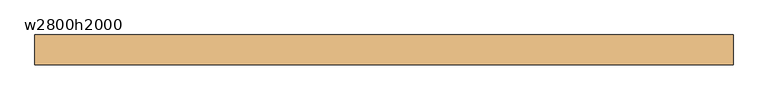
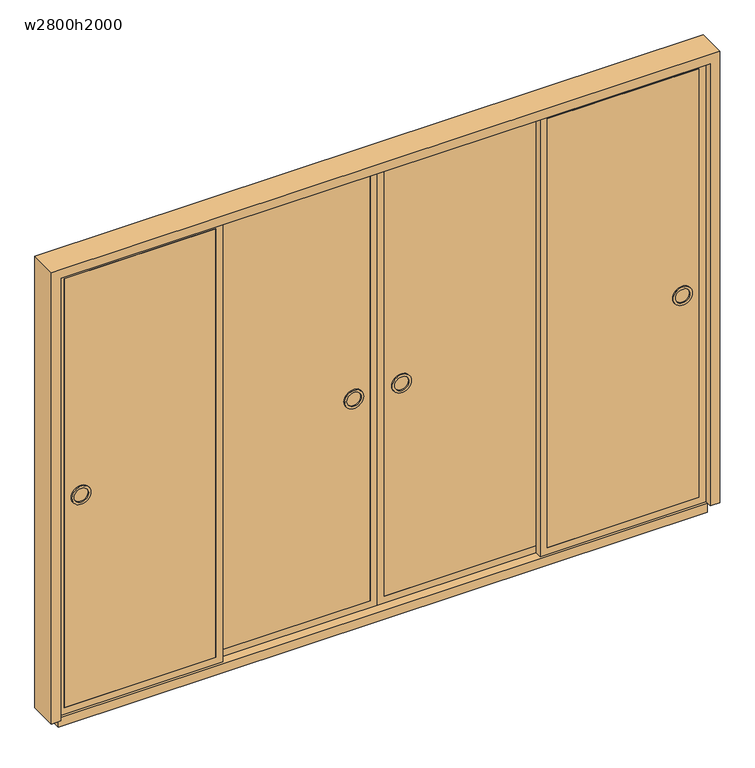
"""IFC4 building model written with IfcOpenShell, lengths in millimetres: door geometry, 引違い 4 枚 2 溝_襖 : w2800h2000."""

from ifc_helpers import new_model, si_unit, point, frame, frame_2d, origin, place, context, project, spatial, polyline, circle_curve, trimmed, segment, composite_curve, outline, extrude, source, transform, mapped, element, save
from ifc_brep_helpers import plane_surface, cylinder_surface, revolved_surface, advanced_brep


def w2800h2000_04aa64cd(model_context):
    return source(origin(), model_context, "Body", "SolidModel", [
        advanced_brep(
        [(54.464496, 35.0, 950.0), (134.464496, 35.0, 950.0), (124.464496, 35.0, 950.0), (64.464496, 35.0, 950.0), (54.464496, -5.0, 950.0), (134.464496, -5.0, 950.0), (64.464496, -5.0, 950.0), (124.464496, -5.0, 950.0), (124.464496, 30.0, 950.0), (64.464496, 30.0, 950.0), (124.464496, 0.0, 950.0), (64.464496, 0.0, 950.0)],
        [
            (0, 1, circle_curve(frame((94.464496, 35.0, 950.0), z_axis=(0.0, 1.0, 0.0), x_axis=(1.0, 0.0, 0.0)), 40.0)),
            (1, 0, circle_curve(frame((94.464496, 35.0, 950.0), z_axis=(0.0, 1.0, 0.0), x_axis=(1.0, 0.0, 0.0)), 40.0)),
            (2, 3, circle_curve(frame((94.464496, 35.0, 950.0), z_axis=(0.0, -1.0, 0.0), x_axis=(-1.0, 0.0, 0.0)), 30.0)),
            (3, 2, circle_curve(frame((94.464496, 35.0, 950.0), z_axis=(0.0, -1.0, 0.0), x_axis=(-1.0, 0.0, 0.0)), 30.0)),
            (4, 5, circle_curve(frame((94.464496, -5.0, 950.0), z_axis=(0.0, -1.0, 0.0), x_axis=(1.0, 0.0, 0.0)), 40.0)),
            (5, 4, circle_curve(frame((94.464496, -5.0, 950.0), z_axis=(0.0, -1.0, 0.0), x_axis=(1.0, 0.0, 0.0)), 40.0)),
            (6, 7, circle_curve(frame((94.464496, -5.0, 950.0), z_axis=(0.0, 1.0, 0.0), x_axis=(-1.0, 0.0, 0.0)), 30.0)),
            (7, 6, circle_curve(frame((94.464496, -5.0, 950.0), z_axis=(0.0, 1.0, 0.0), x_axis=(-1.0, 0.0, 0.0)), 30.0)),
            (1, 5),
            (4, 0),
            (8, 9, circle_curve(frame((94.464496, 30.0, 950.0), z_axis=(0.0, 1.0, 0.0), x_axis=(-1.0, 0.0, 0.0)), 30.0)),
            (9, 8, circle_curve(frame((94.464496, 30.0, 950.0), z_axis=(0.0, 1.0, 0.0), x_axis=(-1.0, 0.0, 0.0)), 30.0)),
            (8, 2),
            (3, 9),
            (10, 11, circle_curve(frame((94.464496, 0.0, 950.0), z_axis=(0.0, -1.0, 0.0), x_axis=(-1.0, 0.0, 0.0)), 30.0)),
            (11, 10, circle_curve(frame((94.464496, 0.0, 950.0), z_axis=(0.0, -1.0, 0.0), x_axis=(-1.0, 0.0, 0.0)), 30.0)),
            (11, 6),
            (7, 10),
        ],
        [
            plane_surface(frame((134.464496, 35.0, 950.0), z_axis=(0.0, 1.0, 0.0), x_axis=(0.0, 0.0, 1.0))),
            plane_surface(frame((134.464496, -5.0, 950.0), z_axis=(0.0, -1.0, 0.0), x_axis=(0.0, 0.0, -1.0))),
            cylinder_surface(frame((94.464496, -5.0, 950.0), z_axis=(0.0, 1.0, 0.0), x_axis=(1.0, 0.0, 0.0)), 40.0),
            plane_surface(frame((64.464496, 30.0, 950.0), z_axis=(0.0, 1.0, 0.0), x_axis=(0.0, 0.0, 1.0))),
            revolved_surface(polyline([(64.464496, 30.0, 950.0), (64.464496, 35.0, 950.0)]), (94.464496, 35.0, 950.0), (0.0, -1.0, 0.0)),
            plane_surface(frame((64.464496, 0.0, 950.0), z_axis=(0.0, -1.0, 0.0), x_axis=(0.0, 0.0, -1.0))),
            revolved_surface(polyline([(64.464496, -5.0, 950.0), (64.464496, 0.0, 950.0)]), (94.464496, 0.0, 950.0), (0.0, -1.0, 0.0)),
        ],
        [
            (0, [[1, 2], [3, 4]]),
            (1, [[5, 6], [7, 8]]),
            (2, [[9, -5, 10, -2]]),
            (2, [[-10, -6, -9, -1]]),
            (3, [[11, 12]]),
            (4, [[13, -4, 14, -11]]),
            (4, [[-14, -3, -13, -12]]),
            (5, [[15, 16]]),
            (6, [[17, -8, 18, -16]]),
            (6, [[-18, -7, -17, -15]]),
        ],
    ),
        extrude(outline(polyline([(1930.0, 659.464496), (1930.0, 24.464496), (30.0, 24.464496), (30.0, 659.464496), (1930.0, 659.464496)]), holes=[composite_curve([segment(trimmed(circle_curve(frame_2d((950.0, 94.464496)), 40.0), [point((950.0, 54.464496))], [point((950.0, 134.464496))], True, "CARTESIAN"), True, "CONTINUOUS"), segment(trimmed(circle_curve(frame_2d((950.0, 94.464496)), 40.0), [point((950.0, 134.464496))], [point((950.0, 54.464496))], True, "CARTESIAN"), True, "CONTINUOUS")], self_intersect=False)]), frame((0.0, 0.0, 0.0), z_axis=(0.0, 1.0, 0.0), x_axis=(0.0, 0.0, 1.0)), (0.0, 0.0, 1.0), 30.0),
        extrude(outline(polyline([(1960.0, 689.464496), (1960.0, -5.535504), (0.0, -5.535504), (0.0, 689.464496), (1960.0, 689.464496)]), holes=[polyline([(30.0, 24.464496), (1930.0, 24.464496), (1930.0, 659.464496), (30.0, 659.464496), (30.0, 24.464496)])]), frame((0.0, 0.0, 0.0), z_axis=(0.0, 1.0, 0.0), x_axis=(0.0, 0.0, 1.0)), (0.0, 0.0, 1.0), 30.0),
        advanced_brep(
        [(1294.464496, 5.0, 950.0), (1214.464496, 5.0, 950.0), (1224.464496, 5.0, 950.0), (1284.464496, 5.0, 950.0), (1294.464496, -35.0, 950.0), (1214.464496, -35.0, 950.0), (1284.464496, -35.0, 950.0), (1224.464496, -35.0, 950.0), (1224.464496, 0.0, 950.0), (1284.464496, 0.0, 950.0), (1224.464496, -30.0, 950.0), (1284.464496, -30.0, 950.0)],
        [
            (0, 1, circle_curve(frame((1254.464496, 5.0, 950.0), z_axis=(0.0, 1.0, 0.0), x_axis=(-1.0, 0.0, 0.0)), 40.0)),
            (1, 0, circle_curve(frame((1254.464496, 5.0, 950.0), z_axis=(0.0, 1.0, 0.0), x_axis=(-1.0, 0.0, 0.0)), 40.0)),
            (2, 3, circle_curve(frame((1254.464496, 5.0, 950.0), z_axis=(0.0, -1.0, 0.0), x_axis=(1.0, 0.0, 0.0)), 30.0)),
            (3, 2, circle_curve(frame((1254.464496, 5.0, 950.0), z_axis=(0.0, -1.0, 0.0), x_axis=(1.0, 0.0, 0.0)), 30.0)),
            (4, 5, circle_curve(frame((1254.464496, -35.0, 950.0), z_axis=(0.0, -1.0, 0.0), x_axis=(-1.0, 0.0, 0.0)), 40.0)),
            (5, 4, circle_curve(frame((1254.464496, -35.0, 950.0), z_axis=(0.0, -1.0, 0.0), x_axis=(-1.0, 0.0, 0.0)), 40.0)),
            (6, 7, circle_curve(frame((1254.464496, -35.0, 950.0), z_axis=(0.0, 1.0, 0.0), x_axis=(1.0, 0.0, 0.0)), 30.0)),
            (7, 6, circle_curve(frame((1254.464496, -35.0, 950.0), z_axis=(0.0, 1.0, 0.0), x_axis=(1.0, 0.0, 0.0)), 30.0)),
            (0, 4),
            (5, 1),
            (8, 9, circle_curve(frame((1254.464496, 0.0, 950.0), z_axis=(0.0, 1.0, 0.0), x_axis=(1.0, 0.0, 0.0)), 30.0)),
            (9, 8, circle_curve(frame((1254.464496, 0.0, 950.0), z_axis=(0.0, 1.0, 0.0), x_axis=(1.0, 0.0, 0.0)), 30.0)),
            (9, 3),
            (2, 8),
            (10, 11, circle_curve(frame((1254.464496, -30.0, 950.0), z_axis=(0.0, -1.0, 0.0), x_axis=(1.0, 0.0, 0.0)), 30.0)),
            (11, 10, circle_curve(frame((1254.464496, -30.0, 950.0), z_axis=(0.0, -1.0, 0.0), x_axis=(1.0, 0.0, 0.0)), 30.0)),
            (10, 7),
            (6, 11),
        ],
        [
            plane_surface(frame((1214.464496, 5.0, 950.0), z_axis=(0.0, 1.0, 0.0), x_axis=(0.0, 0.0, 1.0))),
            plane_surface(frame((1214.464496, -35.0, 950.0), z_axis=(0.0, -1.0, 0.0), x_axis=(0.0, 0.0, -1.0))),
            cylinder_surface(frame((1254.464496, -35.0, 950.0), z_axis=(0.0, 1.0, 0.0), x_axis=(-1.0, 0.0, 0.0)), 40.0),
            plane_surface(frame((1284.464496, 0.0, 950.0), z_axis=(0.0, 1.0, 0.0), x_axis=(0.0, 0.0, 1.0))),
            revolved_surface(polyline([(1284.464496, 0.0, 950.0), (1284.464496, 5.0, 950.0)]), (1254.464496, 5.0, 950.0), (0.0, -1.0, 0.0)),
            plane_surface(frame((1284.464496, -30.0, 950.0), z_axis=(0.0, -1.0, 0.0), x_axis=(0.0, 0.0, -1.0))),
            revolved_surface(polyline([(1284.464496, -35.0, 950.0), (1284.464496, -30.0, 950.0)]), (1254.464496, -30.0, 950.0), (0.0, -1.0, 0.0)),
        ],
        [
            (0, [[1, 2], [3, 4]]),
            (1, [[5, 6], [7, 8]]),
            (2, [[-1, 9, -6, 10]]),
            (2, [[-2, -10, -5, -9]]),
            (3, [[11, 12]]),
            (4, [[-12, 13, -3, 14]]),
            (4, [[-11, -14, -4, -13]]),
            (5, [[15, 16]]),
            (6, [[-15, 17, -7, 18]]),
            (6, [[-16, -18, -8, -17]]),
        ],
    ),
        extrude(outline(polyline([(1930.0, 689.464496), (30.0, 689.464496), (30.0, 1324.464496), (1930.0, 1324.464496), (1930.0, 689.464496)]), holes=[composite_curve([segment(trimmed(circle_curve(frame_2d((950.0, 1254.464496)), 40.0), [point((950.0, 1294.464496))], [point((950.0, 1214.464496))], True, "CARTESIAN"), True, "CONTINUOUS"), segment(trimmed(circle_curve(frame_2d((950.0, 1254.464496)), 40.0), [point((950.0, 1214.464496))], [point((950.0, 1294.464496))], True, "CARTESIAN"), True, "CONTINUOUS")], self_intersect=False)]), frame((0.0, -30.0, 0.0), z_axis=(0.0, 1.0, 0.0), x_axis=(0.0, 0.0, 1.0)), (0.0, 0.0, 1.0), 30.0),
        extrude(outline(polyline([(1960.0, 659.464496), (0.0, 659.464496), (0.0, 1354.464496), (1960.0, 1354.464496), (1960.0, 659.464496)]), holes=[polyline([(30.0, 1324.464496), (30.0, 689.464496), (1930.0, 689.464496), (1930.0, 1324.464496), (30.0, 1324.464496)])]), frame((0.0, -30.0, 0.0), z_axis=(0.0, 1.0, 0.0), x_axis=(0.0, 0.0, 1.0)), (0.0, 0.0, 1.0), 30.0),
        advanced_brep(
        [(-65.535504, 35.0, 950.0), (-145.535504, 35.0, 950.0), (-135.535504, 35.0, 950.0), (-75.535504, 35.0, 950.0), (-65.535504, -5.0, 950.0), (-145.535504, -5.0, 950.0), (-75.535504, -5.0, 950.0), (-135.535504, -5.0, 950.0), (-135.535504, 30.0, 950.0), (-75.535504, 30.0, 950.0), (-135.535504, 0.0, 950.0), (-75.535504, 0.0, 950.0)],
        [
            (0, 1, circle_curve(frame((-105.535504, 35.0, 950.0), z_axis=(0.0, 1.0, 0.0), x_axis=(-1.0, 0.0, 0.0)), 40.0)),
            (1, 0, circle_curve(frame((-105.535504, 35.0, 950.0), z_axis=(0.0, 1.0, 0.0), x_axis=(-1.0, 0.0, 0.0)), 40.0)),
            (2, 3, circle_curve(frame((-105.535504, 35.0, 950.0), z_axis=(0.0, -1.0, 0.0), x_axis=(1.0, 0.0, 0.0)), 30.0)),
            (3, 2, circle_curve(frame((-105.535504, 35.0, 950.0), z_axis=(0.0, -1.0, 0.0), x_axis=(1.0, 0.0, 0.0)), 30.0)),
            (4, 5, circle_curve(frame((-105.535504, -5.0, 950.0), z_axis=(0.0, -1.0, 0.0), x_axis=(-1.0, 0.0, 0.0)), 40.0)),
            (5, 4, circle_curve(frame((-105.535504, -5.0, 950.0), z_axis=(0.0, -1.0, 0.0), x_axis=(-1.0, 0.0, 0.0)), 40.0)),
            (6, 7, circle_curve(frame((-105.535504, -5.0, 950.0), z_axis=(0.0, 1.0, 0.0), x_axis=(1.0, 0.0, 0.0)), 30.0)),
            (7, 6, circle_curve(frame((-105.535504, -5.0, 950.0), z_axis=(0.0, 1.0, 0.0), x_axis=(1.0, 0.0, 0.0)), 30.0)),
            (0, 4),
            (5, 1),
            (8, 9, circle_curve(frame((-105.535504, 30.0, 950.0), z_axis=(0.0, 1.0, 0.0), x_axis=(1.0, 0.0, 0.0)), 30.0)),
            (9, 8, circle_curve(frame((-105.535504, 30.0, 950.0), z_axis=(0.0, 1.0, 0.0), x_axis=(1.0, 0.0, 0.0)), 30.0)),
            (9, 3),
            (2, 8),
            (10, 11, circle_curve(frame((-105.535504, 0.0, 950.0), z_axis=(0.0, -1.0, 0.0), x_axis=(1.0, 0.0, 0.0)), 30.0)),
            (11, 10, circle_curve(frame((-105.535504, 0.0, 950.0), z_axis=(0.0, -1.0, 0.0), x_axis=(1.0, 0.0, 0.0)), 30.0)),
            (10, 7),
            (6, 11),
        ],
        [
            plane_surface(frame((-145.535504, 35.0, 950.0), z_axis=(0.0, 1.0, 0.0), x_axis=(0.0, 0.0, 1.0))),
            plane_surface(frame((-145.535504, -5.0, 950.0), z_axis=(0.0, -1.0, 0.0), x_axis=(0.0, 0.0, -1.0))),
            cylinder_surface(frame((-105.535504, -5.0, 950.0), z_axis=(0.0, 1.0, 0.0), x_axis=(-1.0, 0.0, 0.0)), 40.0),
            plane_surface(frame((-75.535504, 30.0, 950.0), z_axis=(0.0, 1.0, 0.0), x_axis=(0.0, 0.0, 1.0))),
            revolved_surface(polyline([(-75.535504, 30.0, 950.0), (-75.535504, 35.0, 950.0)]), (-105.535504, 35.0, 950.0), (0.0, -1.0, 0.0)),
            plane_surface(frame((-75.535504, 0.0, 950.0), z_axis=(0.0, -1.0, 0.0), x_axis=(0.0, 0.0, -1.0))),
            revolved_surface(polyline([(-75.535504, -5.0, 950.0), (-75.535504, 0.0, 950.0)]), (-105.535504, 0.0, 950.0), (0.0, -1.0, 0.0)),
        ],
        [
            (0, [[1, 2], [3, 4]]),
            (1, [[5, 6], [7, 8]]),
            (2, [[-1, 9, -6, 10]]),
            (2, [[-2, -10, -5, -9]]),
            (3, [[11, 12]]),
            (4, [[-12, 13, -3, 14]]),
            (4, [[-11, -14, -4, -13]]),
            (5, [[15, 16]]),
            (6, [[-15, 17, -7, 18]]),
            (6, [[-16, -18, -8, -17]]),
        ],
    ),
        extrude(outline(polyline([(1930.0, -670.535504), (30.0, -670.535504), (30.0, -35.535504), (1930.0, -35.535504), (1930.0, -670.535504)]), holes=[composite_curve([segment(trimmed(circle_curve(frame_2d((950.0, -105.535504)), 40.0), [point((950.0, -65.535504))], [point((950.0, -145.535504))], True, "CARTESIAN"), True, "CONTINUOUS"), segment(trimmed(circle_curve(frame_2d((950.0, -105.535504)), 40.0), [point((950.0, -145.535504))], [point((950.0, -65.535504))], True, "CARTESIAN"), True, "CONTINUOUS")], self_intersect=False)]), frame((0.0, 0.0, 0.0), z_axis=(0.0, 1.0, 0.0), x_axis=(0.0, 0.0, 1.0)), (0.0, 0.0, 1.0), 30.0),
        extrude(outline(polyline([(1960.0, -700.535504), (0.0, -700.535504), (0.0, -5.535504), (1960.0, -5.535504), (1960.0, -700.535504)]), holes=[polyline([(30.0, -35.535504), (30.0, -670.535504), (1930.0, -670.535504), (1930.0, -35.535504), (30.0, -35.535504)])]), frame((0.0, 0.0, 0.0), z_axis=(0.0, 1.0, 0.0), x_axis=(0.0, 0.0, 1.0)), (0.0, 0.0, 1.0), 30.0),
        advanced_brep(
        [(-1305.535504, 5.0, 950.0), (-1225.535504, 5.0, 950.0), (-1235.535504, 5.0, 950.0), (-1295.535504, 5.0, 950.0), (-1305.535504, -35.0, 950.0), (-1225.535504, -35.0, 950.0), (-1295.535504, -35.0, 950.0), (-1235.535504, -35.0, 950.0), (-1235.535504, 0.0, 950.0), (-1295.535504, 0.0, 950.0), (-1235.535504, -30.0, 950.0), (-1295.535504, -30.0, 950.0)],
        [
            (0, 1, circle_curve(frame((-1265.535504, 5.0, 950.0), z_axis=(0.0, 1.0, 0.0), x_axis=(1.0, 0.0, 0.0)), 40.0)),
            (1, 0, circle_curve(frame((-1265.535504, 5.0, 950.0), z_axis=(0.0, 1.0, 0.0), x_axis=(1.0, 0.0, 0.0)), 40.0)),
            (2, 3, circle_curve(frame((-1265.535504, 5.0, 950.0), z_axis=(0.0, -1.0, 0.0), x_axis=(-1.0, 0.0, 0.0)), 30.0)),
            (3, 2, circle_curve(frame((-1265.535504, 5.0, 950.0), z_axis=(0.0, -1.0, 0.0), x_axis=(-1.0, 0.0, 0.0)), 30.0)),
            (4, 5, circle_curve(frame((-1265.535504, -35.0, 950.0), z_axis=(0.0, -1.0, 0.0), x_axis=(1.0, 0.0, 0.0)), 40.0)),
            (5, 4, circle_curve(frame((-1265.535504, -35.0, 950.0), z_axis=(0.0, -1.0, 0.0), x_axis=(1.0, 0.0, 0.0)), 40.0)),
            (6, 7, circle_curve(frame((-1265.535504, -35.0, 950.0), z_axis=(0.0, 1.0, 0.0), x_axis=(-1.0, 0.0, 0.0)), 30.0)),
            (7, 6, circle_curve(frame((-1265.535504, -35.0, 950.0), z_axis=(0.0, 1.0, 0.0), x_axis=(-1.0, 0.0, 0.0)), 30.0)),
            (1, 5),
            (4, 0),
            (8, 9, circle_curve(frame((-1265.535504, 0.0, 950.0), z_axis=(0.0, 1.0, 0.0), x_axis=(-1.0, 0.0, 0.0)), 30.0)),
            (9, 8, circle_curve(frame((-1265.535504, 0.0, 950.0), z_axis=(0.0, 1.0, 0.0), x_axis=(-1.0, 0.0, 0.0)), 30.0)),
            (8, 2),
            (3, 9),
            (10, 11, circle_curve(frame((-1265.535504, -30.0, 950.0), z_axis=(0.0, -1.0, 0.0), x_axis=(-1.0, 0.0, 0.0)), 30.0)),
            (11, 10, circle_curve(frame((-1265.535504, -30.0, 950.0), z_axis=(0.0, -1.0, 0.0), x_axis=(-1.0, 0.0, 0.0)), 30.0)),
            (11, 6),
            (7, 10),
        ],
        [
            plane_surface(frame((-1225.535504, 5.0, 950.0), z_axis=(0.0, 1.0, 0.0), x_axis=(0.0, 0.0, 1.0))),
            plane_surface(frame((-1225.535504, -35.0, 950.0), z_axis=(0.0, -1.0, 0.0), x_axis=(0.0, 0.0, -1.0))),
            cylinder_surface(frame((-1265.535504, -35.0, 950.0), z_axis=(0.0, 1.0, 0.0), x_axis=(1.0, 0.0, 0.0)), 40.0),
            plane_surface(frame((-1295.535504, 0.0, 950.0), z_axis=(0.0, 1.0, 0.0), x_axis=(0.0, 0.0, 1.0))),
            revolved_surface(polyline([(-1295.535504, 0.0, 950.0), (-1295.535504, 5.0, 950.0)]), (-1265.535504, 5.0, 950.0), (0.0, -1.0, 0.0)),
            plane_surface(frame((-1295.535504, -30.0, 950.0), z_axis=(0.0, -1.0, 0.0), x_axis=(0.0, 0.0, -1.0))),
            revolved_surface(polyline([(-1295.535504, -35.0, 950.0), (-1295.535504, -30.0, 950.0)]), (-1265.535504, -30.0, 950.0), (0.0, -1.0, 0.0)),
        ],
        [
            (0, [[1, 2], [3, 4]]),
            (1, [[5, 6], [7, 8]]),
            (2, [[9, -5, 10, -2]]),
            (2, [[-10, -6, -9, -1]]),
            (3, [[11, 12]]),
            (4, [[13, -4, 14, -11]]),
            (4, [[-14, -3, -13, -12]]),
            (5, [[15, 16]]),
            (6, [[17, -8, 18, -16]]),
            (6, [[-18, -7, -17, -15]]),
        ],
    ),
        extrude(outline(polyline([(1930.0, -700.535504), (1930.0, -1335.535504), (30.0, -1335.535504), (30.0, -700.535504), (1930.0, -700.535504)]), holes=[composite_curve([segment(trimmed(circle_curve(frame_2d((950.0, -1265.535504)), 40.0), [point((950.0, -1305.535504))], [point((950.0, -1225.535504))], True, "CARTESIAN"), True, "CONTINUOUS"), segment(trimmed(circle_curve(frame_2d((950.0, -1265.535504)), 40.0), [point((950.0, -1225.535504))], [point((950.0, -1305.535504))], True, "CARTESIAN"), True, "CONTINUOUS")], self_intersect=False)]), frame((0.0, -30.0, 0.0), z_axis=(0.0, 1.0, 0.0), x_axis=(0.0, 0.0, 1.0)), (0.0, 0.0, 1.0), 30.0),
        extrude(outline(polyline([(1960.0, -670.535504), (1960.0, -1365.535504), (0.0, -1365.535504), (0.0, -670.535504), (1960.0, -670.535504)]), holes=[polyline([(30.0, -1335.535504), (1930.0, -1335.535504), (1930.0, -700.535504), (30.0, -700.535504), (30.0, -1335.535504)])]), frame((0.0, -30.0, 0.0), z_axis=(0.0, 1.0, 0.0), x_axis=(0.0, 0.0, 1.0)), (0.0, 0.0, 1.0), 30.0),
        extrude(outline(polyline([(1354.464496, -40.0), (-1365.535504, -40.0), (-1365.535504, 40.0), (1354.464496, 40.0), (1354.464496, -40.0)])), frame((0.0, 0.0, -40.0), z_axis=(0.0, 0.0, 1.0), x_axis=(1.0, 0.0, 0.0)), (0.0, 0.0, 1.0), 40.0),
        extrude(outline(polyline([(2000.0, 1394.464496), (2000.0, -1405.535504), (0.0, -1405.535504), (0.0, -1365.535504), (1960.0, -1365.535504), (1960.0, 1354.464496), (0.0, 1354.464496), (0.0, 1394.464496), (2000.0, 1394.464496)])), frame((0.0, -60.0, 0.0), z_axis=(0.0, 1.0, 0.0), x_axis=(0.0, 0.0, 1.0)), (0.0, 0.0, 1.0), 120.0),
    ])


if __name__ == "__main__":
    model = new_model("IFC4")
    model_context = context("Model", 3, world=origin())
    ifc_project = project(units=[si_unit("LENGTHUNIT", "METRE", prefix="MILLI")], contexts=[model_context])
    site = spatial("IfcSite", under=ifc_project)
    building = spatial("IfcBuilding", under=site)
    placement = place(None, origin())
    w2800h2000_shape = w2800h2000_04aa64cd(model_context)
    element("IfcDoor", 1, ObjectType="引違い 4 枚 2 溝_襖 : w2800h2000", at=placement, inside=building, context=model_context, shape_type="MappedRepresentation", body=[
        mapped(w2800h2000_shape, transform((0.0, 0.0, 0.0), x_axis=(1.0, 0.0, 0.0), y_axis=(0.0, 1.0, 0.0), z_axis=(0.0, 0.0, 1.0))),
    ])
    save(model, "model.ifc")
